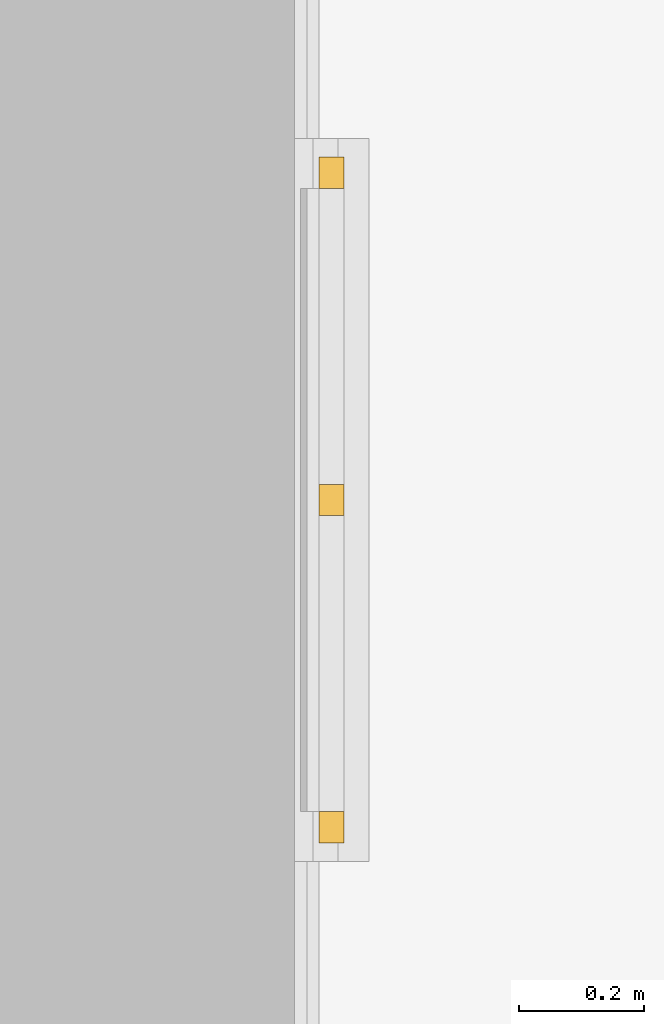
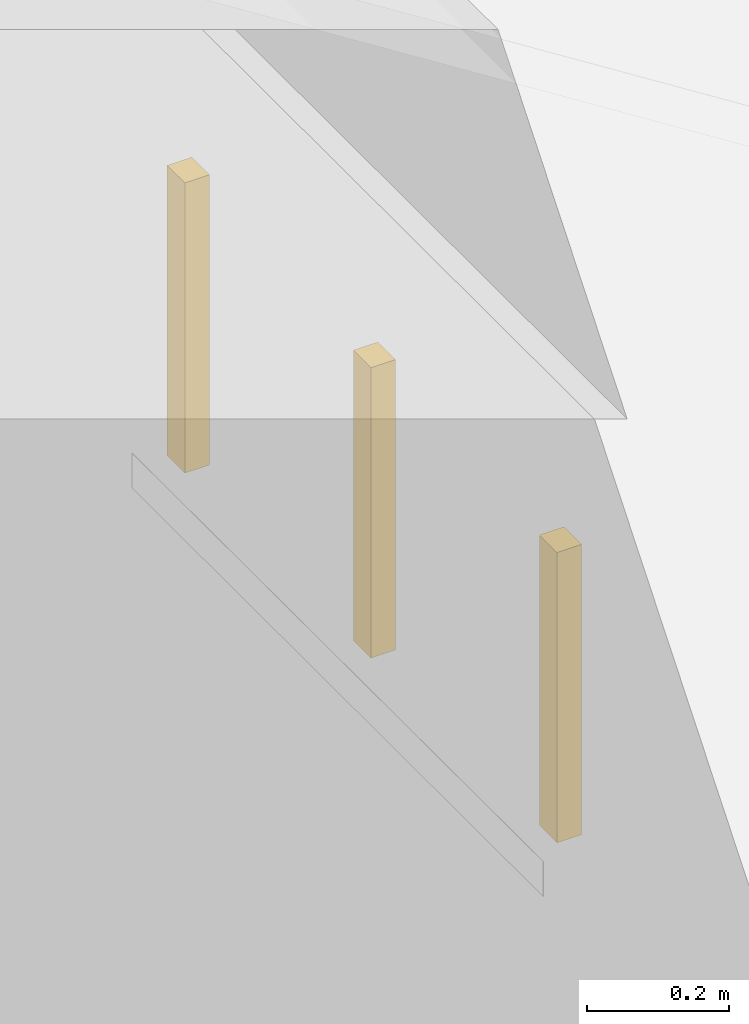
# One storey, part 93 of 177: 3 windows.
"""IFC4 building model written with IfcOpenShell, lengths in metres."""

from ifc_helpers import new_model, si_unit, origin, origin_with_axes, place, context, subcontext, project, spatial, triangles, element, save


model = new_model("IFC4")

# Units and contexts
model_context = context("Model", 3, precision=1e-05, world=origin_with_axes())
body_context = subcontext(model_context, "Body", "Model", "MODEL_VIEW")
ifc_project = project(units=[si_unit("LENGTHUNIT", "METRE"), si_unit("AREAUNIT", "SQUARE_METRE"), si_unit("VOLUMEUNIT", "CUBIC_METRE"), si_unit("PLANEANGLEUNIT", "RADIAN")], contexts=[model_context])

# Site, building, storey
site_placement = place(None, origin_with_axes())
site = spatial("IfcSite", under=ifc_project, at=site_placement, Name="Predio Los Mangos - Morales, San Martín", CompositionType="ELEMENT")
building_placement = place(site_placement, origin())
building = spatial("IfcBuilding", under=site, at=building_placement, Name="Hogar de Refugio Temporal", CompositionType="ELEMENT")
storey_placement = place(building_placement, origin())
storey = spatial("IfcBuildingStorey", under=building, at=storey_placement, Name="NIVEL 1 (NPT +0.00)", CompositionType="ELEMENT", Elevation=0.0)

# Windows
window_1_placement = place(storey_placement, origin())
element("IfcWindow", 1, at=window_1_placement, inside=storey, Name="E-07_vt7_m", ObjectType="Ventana", PredefinedType="WINDOW", context=body_context, shape_type="Tessellation", body=[
    triangles([(66.54, 118.475, 2.45), (66.58, 118.475, 2.45), (66.58, 118.525, 2.45), (66.54, 118.525, 2.45), (66.54, 118.475, 2.95), (66.58, 118.475, 2.95), (66.58, 118.525, 2.95), (66.54, 118.525, 2.95)], [[1, 4, 3], [1, 3, 2], [5, 6, 7], [5, 7, 8], [1, 2, 6], [1, 6, 5], [2, 3, 7], [2, 7, 6], [3, 4, 8], [3, 8, 7], [4, 1, 5], [4, 5, 8]]),
])
window_2_placement = place(storey_placement, origin())
element("IfcWindow", 2, at=window_2_placement, inside=storey, Name="E-07_vt7_m", ObjectType="Ventana", PredefinedType="WINDOW", context=body_context, shape_type="Tessellation", body=[
    triangles([(66.54, 119.525, 2.45), (66.58, 119.525, 2.45), (66.58, 119.575, 2.45), (66.54, 119.575, 2.45), (66.54, 119.525, 2.95), (66.58, 119.525, 2.95), (66.58, 119.575, 2.95), (66.54, 119.575, 2.95)], [[1, 4, 3], [1, 3, 2], [5, 6, 7], [5, 7, 8], [1, 2, 6], [1, 6, 5], [2, 3, 7], [2, 7, 6], [3, 4, 8], [3, 8, 7], [4, 1, 5], [4, 5, 8]]),
])
window_3_placement = place(storey_placement, origin())
element("IfcWindow", 3, at=window_3_placement, inside=storey, Name="E-07_vt7_m", ObjectType="Ventana", PredefinedType="WINDOW", context=body_context, shape_type="Tessellation", body=[
    triangles([(66.54, 119.0, 2.45), (66.58, 119.0, 2.45), (66.58, 119.05, 2.45), (66.54, 119.05, 2.45), (66.54, 119.0, 2.95), (66.58, 119.0, 2.95), (66.58, 119.05, 2.95), (66.54, 119.05, 2.95)], [[1, 4, 3], [1, 3, 2], [5, 6, 7], [5, 7, 8], [1, 2, 6], [1, 6, 5], [2, 3, 7], [2, 7, 6], [3, 4, 8], [3, 8, 7], [4, 1, 5], [4, 5, 8]]),
])

save(model, "model.ifc")
